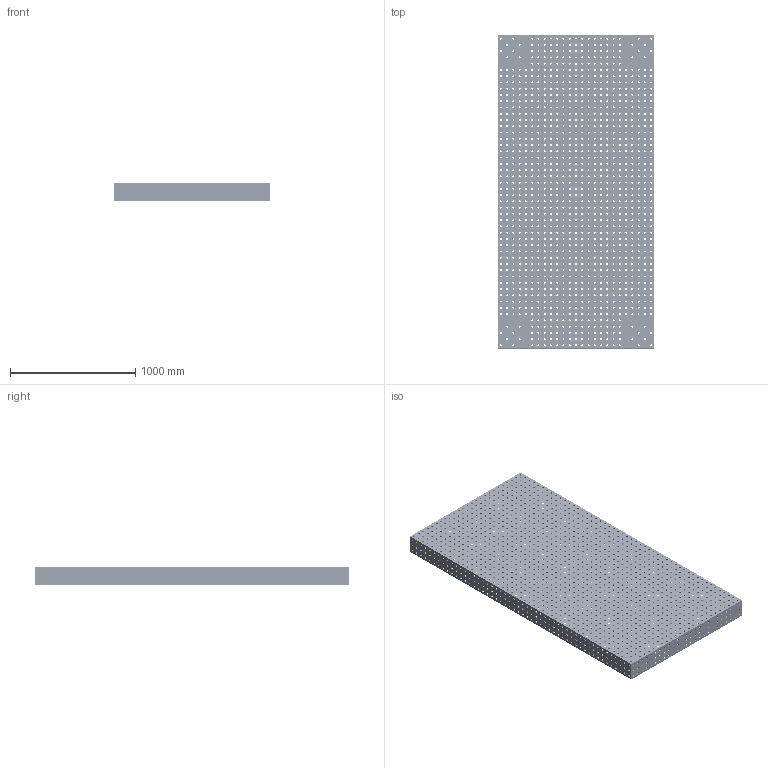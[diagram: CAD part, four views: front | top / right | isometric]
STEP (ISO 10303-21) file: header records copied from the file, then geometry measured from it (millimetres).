
FILE_DESCRIPTION(/* description */ (''),/* implementation_level */ '2;1');
FILE_NAME(/* name */ '3D Simplifi - 2500x1250 G3.step',/* time_stamp */ '2026-09-09T12:04:54+02:00',/* author */ (''),/* organization */ (''),/* preprocessor_version */ 'ST-DEVELOPER v20.2',/* originating_system */ 'Autodesk Translation Framework v15.15.0.0',/* authorisation */ '');
FILE_SCHEMA (('AUTOMOTIVE_DESIGN { 1 0 10303 214 3 1 1 }'));
Products named in the file (1): 3D Simplifié - 2500x1250
Bounding box: 1250 x 2500 x 150 mm (x, y, z)
Volume: 42547586.1 mm3; surface area: 15031540.1 mm2
Topology: 6 solids, 6 shells, 1992 faces, 5940 edges, 3960 vertices
Faces by surface type: cylinder 1756, plane 236
Full cylindrical faces by diameter (mm): 6.5 x24, 16 x1732
Entity records: 76228 total; most frequent: DIRECTION 13438, CARTESIAN_POINT 11893, ORIENTED_EDGE 11880, EDGE_CURVE 5940, EDGE_LOOP 5604, AXIS2_PLACEMENT_3D 5505, VERTEX_POINT 3960, FACE_BOUND 3612
